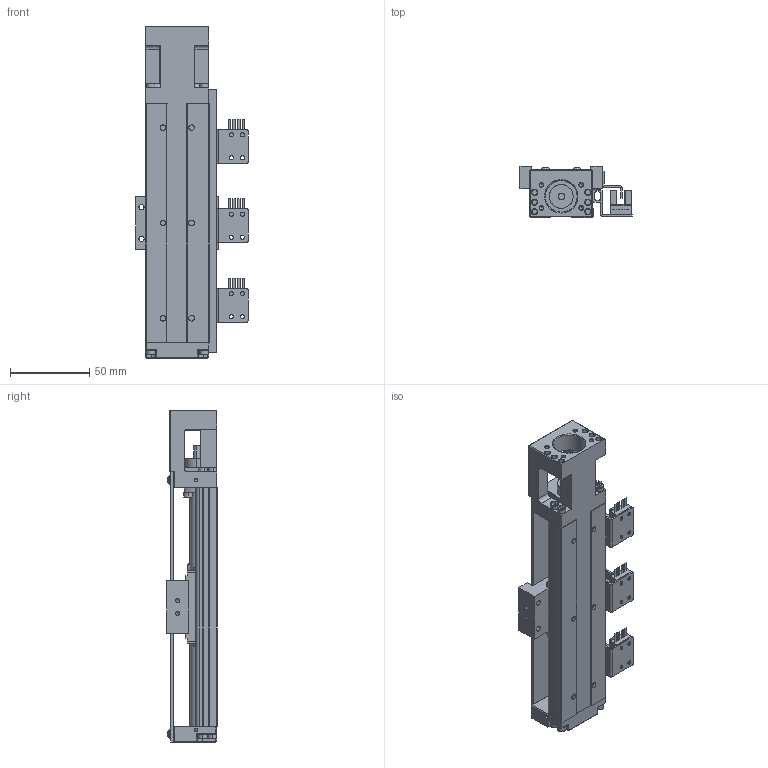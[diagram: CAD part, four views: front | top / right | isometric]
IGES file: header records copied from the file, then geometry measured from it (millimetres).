
Start section: SolidWorks IGES file using analytic representation for surfaces
Bounding box: 70.55 x 32 x 209 mm (x, y, z)
Surface area: 82941.4 mm2 (no closed solid volume)
Topology: 0 solids, 0 shells, 1325 faces, 15808 edges, 15712 vertices
Faces by surface type: bspline 746, revolution 579
